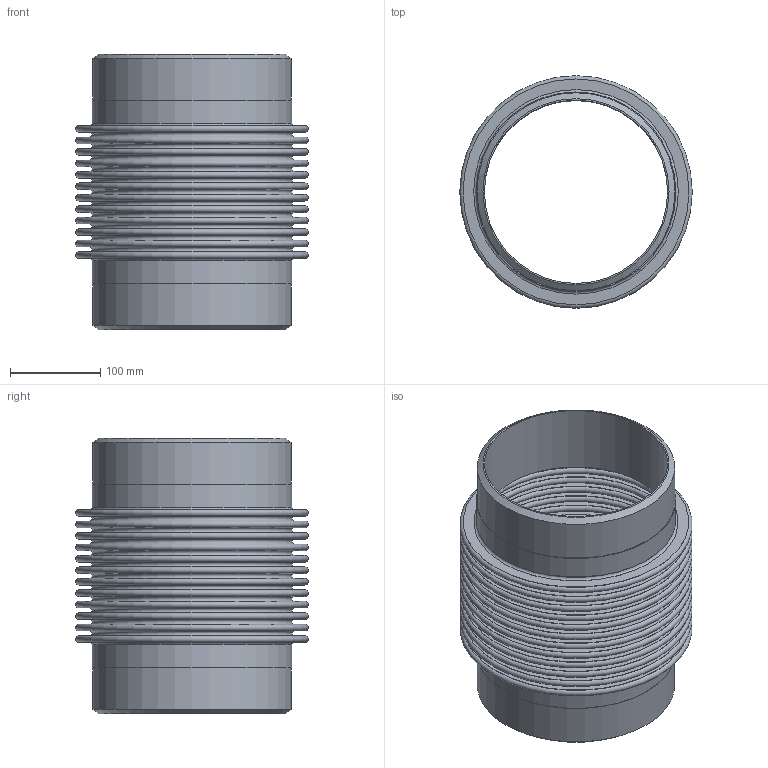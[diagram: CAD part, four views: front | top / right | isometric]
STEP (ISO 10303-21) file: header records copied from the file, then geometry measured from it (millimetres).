
FILE_DESCRIPTION(/* description */ ('EXPANSION JOINT,SINGLE, WELD ENDS,4 INCH NOMINAL'),/* implementation_level */ '2;1');
FILE_NAME(/* name */ 'ASSEMBLY US-8-12-150L.stp',/* time_stamp */ '2026-07-28T16:28:36-05:00',/* author */ ('jorgef'),/* organization */ (''),/* preprocessor_version */ 'ST-DEVELOPER v20.1',/* originating_system */ 'Autodesk Inventor 2026',/* authorisation */ '');
FILE_SCHEMA (('AUTOMOTIVE_DESIGN { 1 0 10303 214 3 1 1 }'));
Length unit declared in the file: inch
Products named in the file (3): ASSEMBLY  US-8-12-150L; STOCK BELLOW - US-8-12-150L; PIPE- US-8-12-150L
Assembly tree (3 placements, depth 2):
  ASSEMBLY  US-8-12-150L
    STOCK BELLOW - US-8-12-150L
    PIPE- US-8-12-150L  x2
Bounding box: 257.18 x 257.18 x 304.8 mm (x, y, z)
Volume: 1192698.2 mm3; surface area: 1074332.7 mm2
Topology: 5 solids, 5 shells, 118 faces, 180 edges, 121 vertices
Faces by surface type: plane 58, torus 50, cylinder 8, cone 2
Full cylindrical faces by diameter (mm): 202.717 x2, 219.075 x4, 220.904 x2
Entity records: 2769 total; most frequent: DIRECTION 573, CARTESIAN_POINT 405, ORIENTED_EDGE 342, AXIS2_PLACEMENT_3D 283, EDGE_CURVE 171, EDGE_LOOP 169, CIRCLE 164, VERTEX_POINT 114
